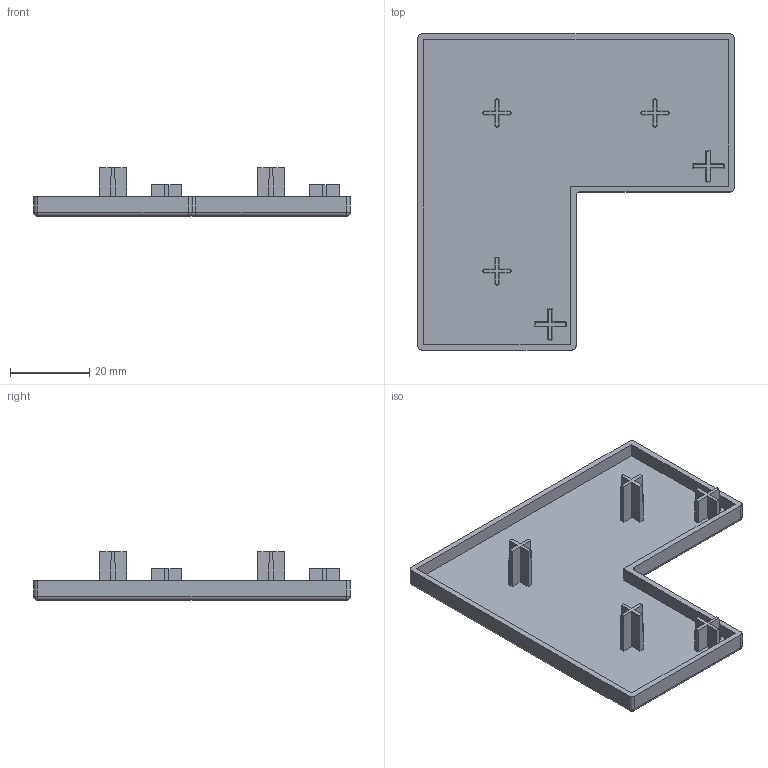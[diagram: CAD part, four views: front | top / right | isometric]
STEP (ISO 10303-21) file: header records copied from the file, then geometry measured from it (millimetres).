
FILE_DESCRIPTION (( 'STEP AP203' ), '1' );
FILE_NAME ('DEC8840.STEP', '2022-06-24T03:44:06', ( '' ), ( '' ), 'SwSTEP 2.0', 'SolidWorks 2017', '' );
FILE_SCHEMA (( 'CONFIG_CONTROL_DESIGN' ));
Length unit declared in the file: millimetre
Products named in the file (1): DEC8840
Bounding box: 80 x 80 x 12.3 mm (x, y, z)
Volume: 9435.2 mm3; surface area: 13385.4 mm2
Topology: 1 solids, 1 shells, 103 faces, 273 edges, 173 vertices
Faces by surface type: plane 60, cone 25, cylinder 12, sphere 5, torus 1
Entity records: 3330 total; most frequent: CARTESIAN_POINT 737, ORIENTED_EDGE 536, DIRECTION 511, EDGE_CURVE 268, AXIS2_PLACEMENT_3D 179, VERTEX_POINT 173, LINE 153, VECTOR 153
